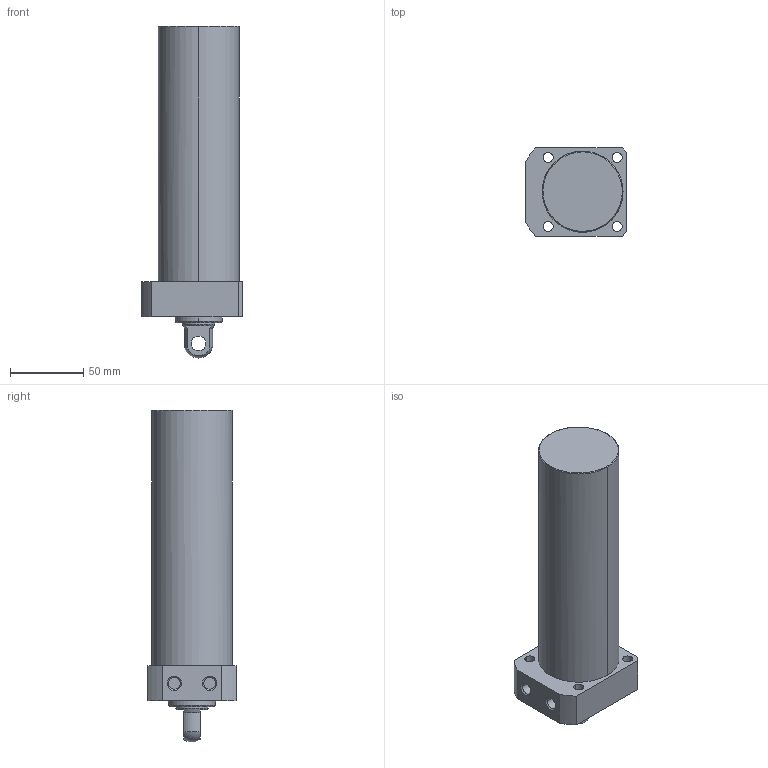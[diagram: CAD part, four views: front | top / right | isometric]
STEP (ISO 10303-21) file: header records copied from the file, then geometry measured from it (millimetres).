
FILE_DESCRIPTION((' '),'2;1');
FILE_NAME( 'TLLR-055CP-145.STEP.stp', '2025-10-24T16:34:53', (' '), ('--- Datakit www.datakit.com---'), ' Datakit CrossCadWare V2024.1 Dec 21 2023', 'Mastercam 2025', ' ');
FILE_SCHEMA(('AUTOMOTIVE_DESIGN { 1 0 10303 214 1 1 1 1 }'));
Length unit declared in the file: millimetre
Products named in the file (1): TLLR-055CP-145
Bounding box: 69 x 60 x 225.93 mm (x, y, z)
Volume: 512918.2 mm3; surface area: 48283.1 mm2
Topology: 1 solids, 1 shells, 57 faces, 164 edges, 116 vertices
Faces by surface type: cylinder 28, plane 18, cone 8, torus 2, sphere 1
Entity records: 2006 total; most frequent: DIRECTION 378, CARTESIAN_POINT 350, ORIENTED_EDGE 328, EDGE_CURVE 164, AXIS2_PLACEMENT_3D 160, VERTEX_POINT 116, CIRCLE 102, EDGE_LOOP 74
